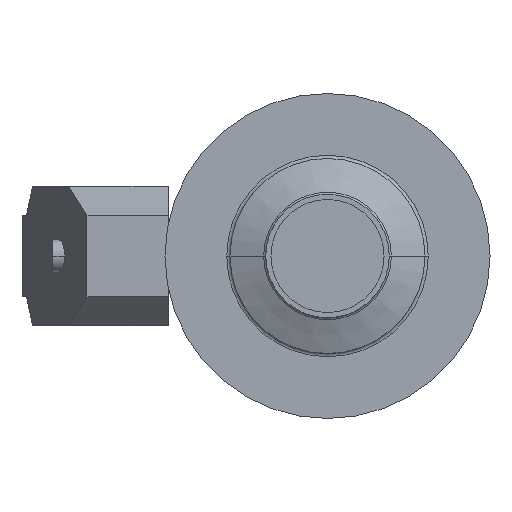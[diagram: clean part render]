
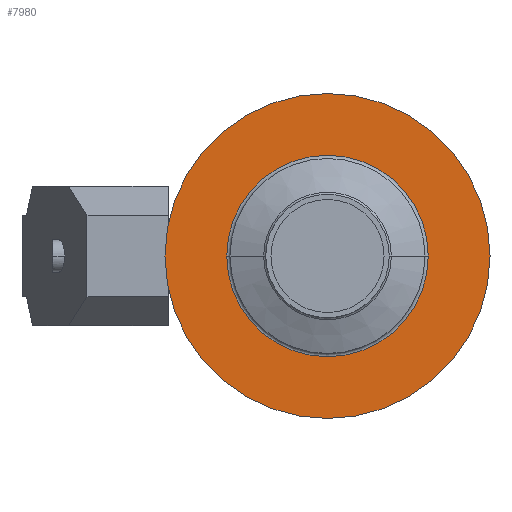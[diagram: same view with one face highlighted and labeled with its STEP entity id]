
A CAD part, left-side view. The second image highlights one B-rep face of the part: STEP entity #7980.
In plain terms, the highlighted planar face has unit normal (-1, 0, 0) as drawn and (1, 0, 0) by its records, which use the part's own axes.
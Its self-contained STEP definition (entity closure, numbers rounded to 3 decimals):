
#7500=CARTESIAN_POINT('',(-160.043,-53.721,0.));
#7510=VERTEX_POINT('',#7500);
#7590=CARTESIAN_POINT('',(-160.043,46.279,
0.));
#7600=VERTEX_POINT('',#7590);
#7630=CARTESIAN_POINT('',(-160.043,-3.721,0.));
#7640=DIRECTION('',(-1.,0.,0.));
#7650=DIRECTION('',(0.,1.,0.));
#7660=AXIS2_PLACEMENT_3D('',#7630,#7640,#7650);
#7670=CIRCLE('',#7660,50.);
#7680=EDGE_CURVE('',#7510,#7600,#7670,.T.);
#7730=CARTESIAN_POINT('',(-160.043,43.929,0.));
#7740=DIRECTION('',(-1.,0.,0.));
#7750=DIRECTION('',(0.,-1.,0.));
#7760=AXIS2_PLACEMENT_3D('',#7730,#7740,#7750);
#7770=PLANE('',#7760);
#7780=CARTESIAN_POINT('',(-160.043,-3.721,0.));
#7790=DIRECTION('',(-1.,0.,0.));
#7800=DIRECTION('',(0.,1.,0.));
#7810=AXIS2_PLACEMENT_3D('',#7780,#7790,#7800);
#7820=CIRCLE('',#7810,31.);
#7830=CARTESIAN_POINT('',(-160.043,27.279,0.));
#7840=VERTEX_POINT('',#7830);
#7850=CARTESIAN_POINT('',(-160.043,-34.721,0.));
#7860=VERTEX_POINT('',#7850);
#7870=EDGE_CURVE('',#7840,#7860,#7820,.T.);
#7880=ORIENTED_EDGE('',*,*,#7870,.T.);
#7890=EDGE_CURVE('',#7860,#7840,#7820,.T.);
#7900=ORIENTED_EDGE('',*,*,#7890,.T.);
#7910=EDGE_LOOP('',(#7900,#7880));
#7920=FACE_BOUND('',#7910,.T.);
#7930=EDGE_CURVE('',#7600,#7510,#7670,.T.);
#7940=ORIENTED_EDGE('',*,*,#7930,.F.);
#7950=ORIENTED_EDGE('',*,*,#7680,.F.);
#7960=EDGE_LOOP('',(#7950,#7940));
#7970=FACE_OUTER_BOUND('',#7960,.T.);
#7980=ADVANCED_FACE('',(#7920,#7970),#7770,.F.);
